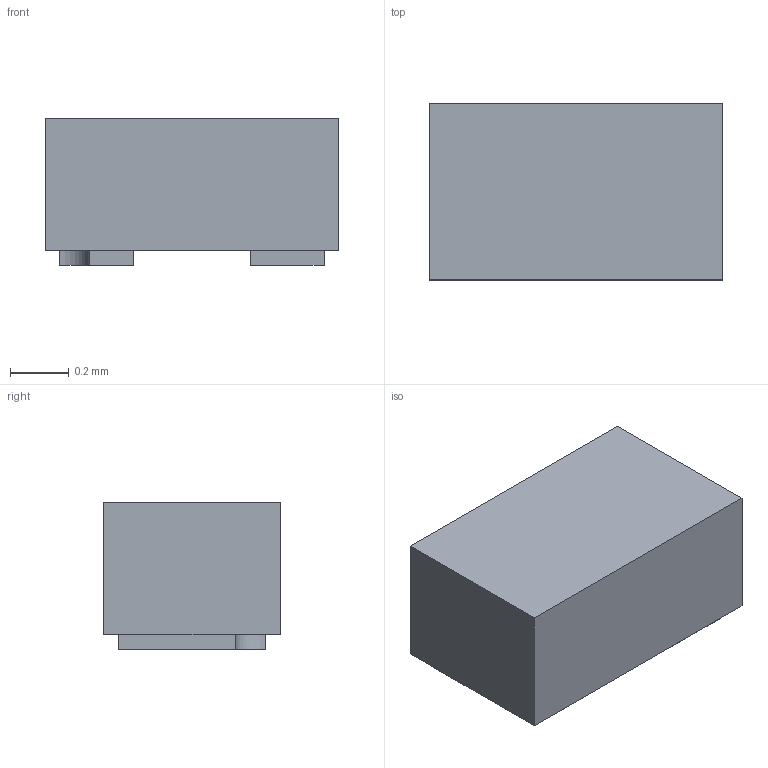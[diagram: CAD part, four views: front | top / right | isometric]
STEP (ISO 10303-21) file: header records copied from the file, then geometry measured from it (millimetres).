
FILE_DESCRIPTION(/* description */ (''),/* implementation_level */ '2;1');
FILE_NAME(/* name */ 'P305-SOD882.stp',/* time_stamp */ '2020-07-09T13:56:05+02:00',/* author */ (''),/* organization */ (''),/* preprocessor_version */ 'ST-DEVELOPER v14',/* originating_system */ 'SIEMENS PLM Software NX 8.0',/* authorisation */ '');
FILE_SCHEMA (('AUTOMOTIVE_DESIGN { 1 0 10303 214 3 1 1 1 }'));
Length unit declared in the file: millimetre
Products named in the file (1): P305-SOD882-body
Bounding box: 1 x 0.6 x 0.5 mm (x, y, z)
Volume: 0.3 mm3; surface area: 3.6 mm2
Topology: 3 solids, 3 shells, 30 faces, 66 edges, 44 vertices
Faces by surface type: plane 28, cylinder 2
Entity records: 923 total; most frequent: CARTESIAN_POINT 145, ORIENTED_EDGE 132, DIRECTION 132, EDGE_CURVE 66, LINE 62, VECTOR 62, VERTEX_POINT 44, AXIS2_PLACEMENT_3D 35
